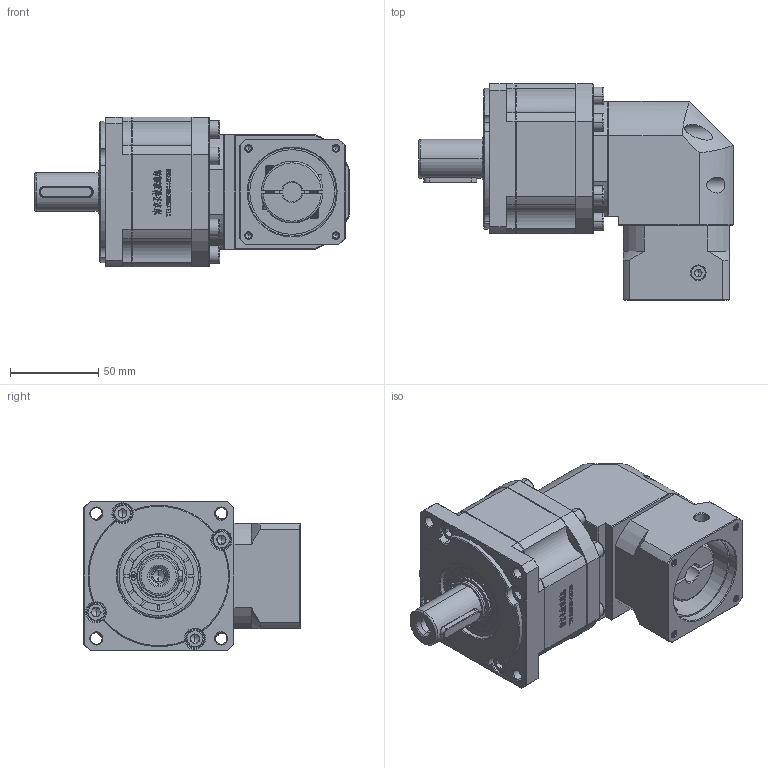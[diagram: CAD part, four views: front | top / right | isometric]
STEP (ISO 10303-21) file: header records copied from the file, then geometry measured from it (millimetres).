
FILE_DESCRIPTION (( 'STEP AP214' ), '1' );
FILE_NAME ('ZBR90-D22-L2-11-50-70-M4.step', '2022-05-07T15:19:10', ( '' ), ( 'Microsoft' ), 'SwSTEP 2.0', 'SolidWorks 2016', '' );
FILE_SCHEMA (( 'AUTOMOTIVE_DESIGN' ));
Length unit declared in the file: millimetre
Products named in the file (1): ZBR90-D22-L2-11-50-70-M4
Bounding box: 178.5 x 122.7 x 85 mm (x, y, z)
Volume: 802528.3 mm3; surface area: 99414.9 mm2
Topology: 5 solids, 5 shells, 3031 faces, 8138 edges, 5251 vertices
Faces by surface type: plane 1598, bspline 608, cylinder 437, cone 368, torus 20
Entity records: 161097 total; most frequent: CARTESIAN_POINT 56438, ORIENTED_EDGE 16184, DIRECTION 12491, EDGE_CURVE 8092, VECTOR 5329, LINE 5329, VERTEX_POINT 5251, AXIS2_PLACEMENT_3D 3581
